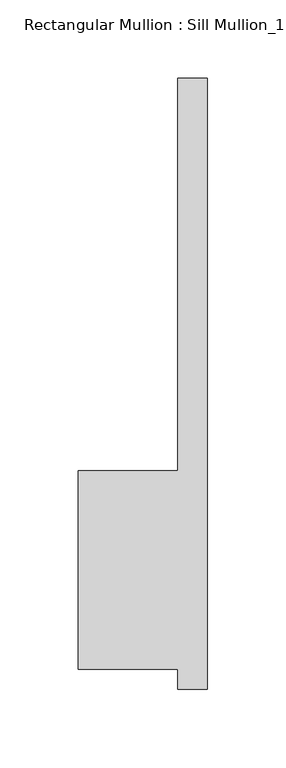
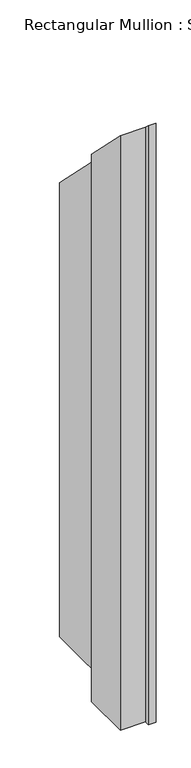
"""IFC4 building model written with IfcOpenShell, lengths in millimetres: member geometry."""

from ifc_helpers import new_model, si_unit, origin, place, context, project, spatial, faceted_brep, source, transform, mapped, element, save


def member_c8a3fe69(model_context):
    return source(origin(), model_context, "Body", "Brep", [
        faceted_brep([(-82.55, 50.8, -1519.9178571), (-19.05, 50.8, -1519.9178571), (-19.05, 301.625, -1519.9178571), (0.0, 301.625, -1519.9178571), (0.0, -88.9, -1519.9178571), (-19.05, -88.9, -1519.9178571), (-19.05, -76.2, -1519.9178571), (-82.55, -76.2, -1519.9178571), (-82.55, -76.2, 76.2), (-82.55, 50.8, -50.8), (-19.05, -76.2, 76.2), (-19.05, -88.9, 88.9), (0.0, -88.9, 88.9), (0.0, 301.625, -301.625), (-19.05, 301.625, -301.625), (-19.05, 50.8, -50.8)], [[[0, 1, 2, 3, 4, 5, 6, 7]], [[8, 9, 0, 7]], [[10, 8, 7, 6]], [[11, 10, 6, 5]], [[12, 11, 5, 4]], [[13, 12, 4, 3]], [[14, 13, 3, 2]], [[15, 14, 2, 1]], [[9, 15, 1, 0]], [[9, 8, 10, 11, 12, 13, 14, 15]]]),
    ])


if __name__ == "__main__":
    model = new_model("IFC4")
    model_context = context("Model", 3, world=origin())
    ifc_project = project(units=[si_unit("LENGTHUNIT", "METRE", prefix="MILLI")], contexts=[model_context])
    site = spatial("IfcSite", under=ifc_project)
    building = spatial("IfcBuilding", under=site)
    placement = place(None, origin())
    member_shape = member_c8a3fe69(model_context)
    element("IfcMember", 1, ObjectType="Rectangular Mullion : Sill Mullion_15\" thick wall", at=placement, inside=building, context=model_context, shape_type="MappedRepresentation", body=[
        mapped(member_shape, transform((0.0, 0.0, 0.0), x_axis=(1.0, 0.0, 0.0), y_axis=(0.0, 1.0, 0.0), z_axis=(0.0, 0.0, 1.0))),
    ])
    save(model, "model.ifc")
